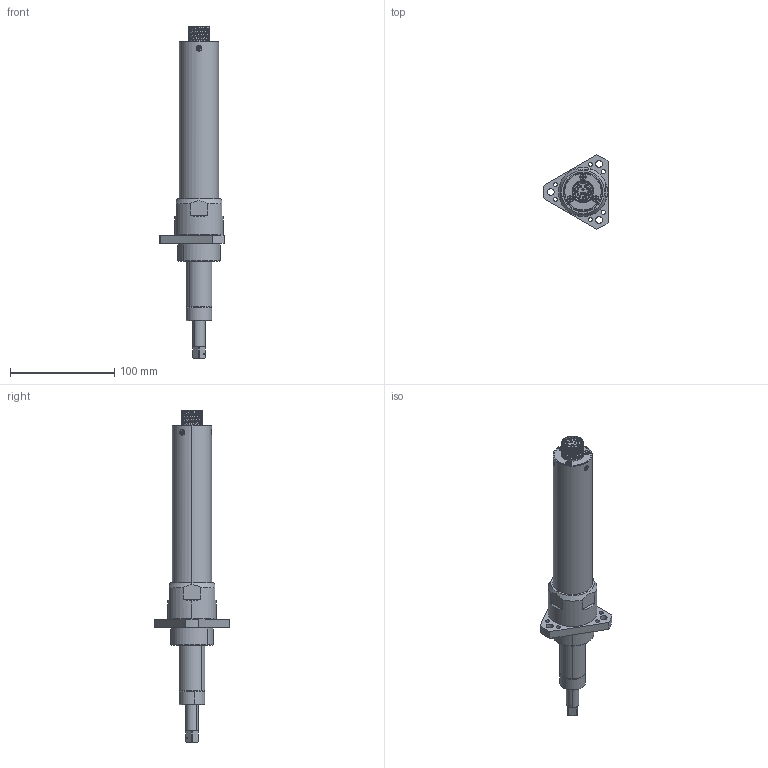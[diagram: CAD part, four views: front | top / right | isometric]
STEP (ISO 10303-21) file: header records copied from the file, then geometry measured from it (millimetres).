
FILE_DESCRIPTION (( 'STEP AP203' ), '1' );
FILE_NAME ('MDA3204,3211,3216+TBC-Q.STEP', '2023-03-08T03:46:39', ( '' ), ( '' ), 'SwSTEP 2.0', 'SolidWorks 2021', '' );
FILE_SCHEMA (( 'CONFIG_CONTROL_DESIGN' ));
Length unit declared in the file: millimetre
Products named in the file (1): MDA3204,3211,3216+TBC-Q
Bounding box: 62.43 x 71.48 x 319.15 mm (x, y, z)
Surface area: 47454.3 mm2 (no closed solid volume)
Topology: 0 solids, 41 shells, 369 faces, 1294 edges, 918 vertices
Faces by surface type: cylinder 146, plane 143, cone 61, bspline 11, torus 8
Entity records: 21794 total; most frequent: CARTESIAN_POINT 10955, DIRECTION 2204, ORIENTED_EDGE 2021, EDGE_CURVE 1294, VERTEX_POINT 918, AXIS2_PLACEMENT_3D 841, VECTOR 522, LINE 522
